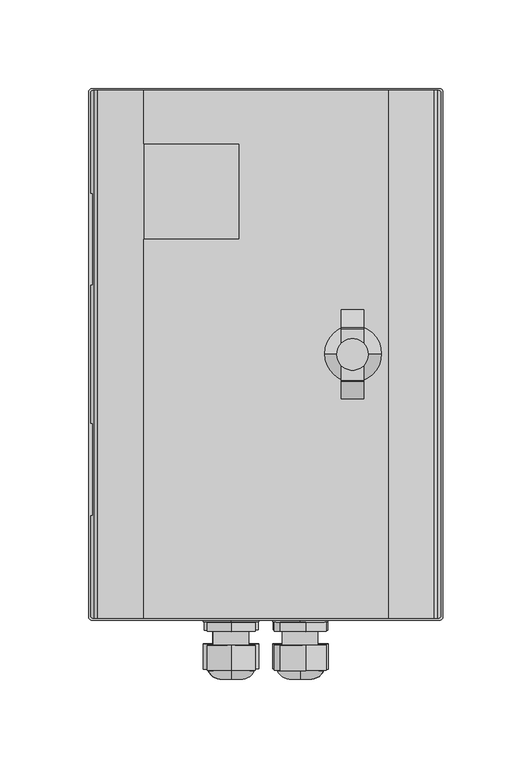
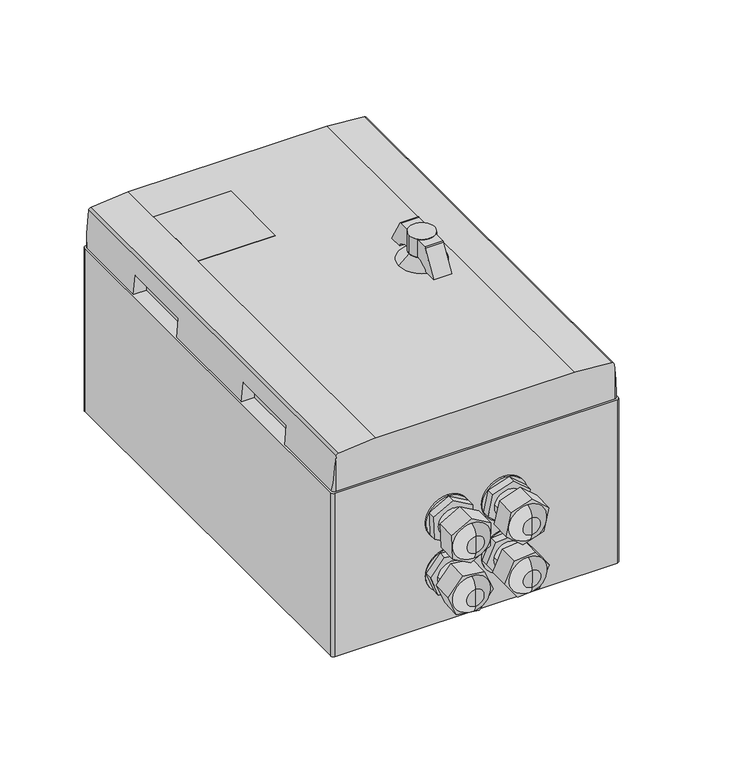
"""IFC4 building model written with IfcOpenShell, lengths in millimetres: proxy geometry, SYNAPS-POE 3E P2 : SYNAPS-POE 3E P2."""

from ifc_helpers import new_model, si_unit, point, frame, frame_2d, origin, origin_with_axes, place, context, project, spatial, polyline, circle_curve, ellipse_curve, trimmed, segment, composite_curve, outline, extrude, source, transform, mapped, element, save
from ifc_brep_helpers import plane_surface, cylinder_surface, revolved_surface, spline_surface, advanced_brep


def electrical_equipment_08942847(model_context):
    return source(origin(), model_context, "Body", "SolidModel", [
        advanced_brep(
        [(40.5431131, 21.2156863, 156.8), (58.3431131, 21.2156863, 156.8), (33.7079439, 21.5787102, 150.0), (65.7995243, 21.5787102, 150.0)],
        [
            (0, 1, circle_curve(frame((49.4431131, 21.2156863, 156.8), z_axis=(0.0, 0.0, 1.0), x_axis=(1.0, 0.0, 0.0)), 8.9)),
            (1, 0, circle_curve(frame((49.4431131, 21.2156863, 156.8), z_axis=(0.0, 0.0, 1.0), x_axis=(1.0, 0.0, 0.0)), 8.9)),
            (2, 3, circle_curve(frame((49.7537341, 21.5787102, 150.0), z_axis=(0.0, 0.0, -1.0), x_axis=(1.0, 0.0, 0.0)), 16.0457902)),
            (3, 2, circle_curve(frame((49.7537341, 21.5787102, 150.0), z_axis=(0.0, 0.0, -1.0), x_axis=(1.0, 0.0, 0.0)), 16.0457902)),
            (3, 1),
            (0, 2),
        ],
        [
            plane_surface(frame((49.4431131, 21.2156863, 156.8), z_axis=(0.0, 0.0, 1.0), x_axis=(0.0, -1.0, 0.0))),
            plane_surface(frame((49.7537341, 21.5787102, 150.0), z_axis=(0.0, 0.0, -1.0), x_axis=(0.0, -1.0, 0.0))),
            spline_surface(2, 1, [[(33.7079439, 21.5787102, 150.0), (40.5431131, 21.2156863, 156.8)], [(33.7079439, 5.532919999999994, 150.0), (40.5431131, 12.315686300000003, 156.8)], [(49.7537341, 5.532919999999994, 150.0), (49.4431131, 12.315686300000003, 156.8)], [(65.7995243, 5.5329199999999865, 150.0), (58.3431131, 12.3156863, 156.8)], [(65.7995243, 21.5787102, 150.0), (58.3431131, 21.2156863, 156.8)]], [3, 2, 3], [2, 2], [0.0, 1.0, 2.0], [0.0, 1.0], weights=[[1.0, 1.0], [0.7071067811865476, 0.7071067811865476], [1.0, 1.0], [0.7071067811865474, 0.7071067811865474], [1.0, 1.0]]),
            spline_surface(2, 1, [[(65.7995243, 21.5787102, 150.0), (58.3431131, 21.2156863, 156.8)], [(65.7995243, 37.6245004, 150.0), (58.3431131, 30.1156863, 156.8)], [(49.7537341, 37.6245004, 150.0), (49.4431131, 30.1156863, 156.8)], [(33.707943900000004, 37.62450039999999, 150.0), (40.5431131, 30.115686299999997, 156.8)], [(33.7079439, 21.5787102, 150.0), (40.5431131, 21.2156863, 156.8)]], [3, 2, 3], [2, 2], [0.0, 1.0, 2.0], [0.0, 1.0], weights=[[1.0, 1.0], [0.7071067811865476, 0.7071067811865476], [1.0, 1.0], [0.7071067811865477, 0.7071067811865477], [1.0, 1.0]]),
        ],
        [
            (0, [[1, 2]]),
            (1, [[3, 4]]),
            (2, [[-4, 5, -1, 6]]),
            (3, [[-3, -6, -2, -5]]),
        ],
    ),
        extrude(outline(composite_curve([segment(polyline([(5.4251933, 152.0265412), (-3.8152775, 152.0265412), (5.9963901, 169.2293643)]), True, "CONTINUOUS"), segment(trimmed(circle_curve(frame_2d((6.8065578, 168.7672834)), 0.9326792), [point((5.9963901, 169.2293643))], [point((6.6279678, 169.6827047))], False, "CARTESIAN"), True, "CONTINUOUS"), segment(polyline([(6.6279678, 169.6827047), (35.6186228, 169.6827047)]), True, "CONTINUOUS"), segment(trimmed(circle_curve(frame_2d((35.6186228, 168.632252)), 1.0504526), [point((35.6186228, 169.6827047))], [point((36.4885968, 169.220976))], False, "CARTESIAN"), True, "CONTINUOUS"), segment(polyline([(36.4885968, 169.220976), (46.3400389, 151.9484162), (37.0251933, 151.9484162), (37.0251933, 153.5429781), (30.214118, 156.889083), (12.402542, 156.889083), (7.9148521, 154.6843972), (5.4251933, 153.4612923), (5.4251933, 152.0265412)]), True, "CONTINUOUS")], self_intersect=False)), frame((43.1794615, 0.0, 0.0), z_axis=(1.0, 0.0, 0.0), x_axis=(0.0, 1.0, 0.0)), (0.0, 0.0, 1.0), 12.4973815),
        extrude(outline(composite_curve([segment(trimmed(circle_curve(frame_2d((49.4431131, 21.2156863)), 8.9), [point((40.5431131, 21.2156863))], [point((58.3431131, 21.2156863))], False, "CARTESIAN"), True, "CONTINUOUS"), segment(trimmed(circle_curve(frame_2d((49.4431131, 21.2156863)), 8.9), [point((58.3431131, 21.2156863))], [point((40.5431131, 21.2156863))], False, "CARTESIAN"), True, "CONTINUOUS")], self_intersect=False)), frame((0.0, 0.0, 156.8), z_axis=(0.0, 0.0, 1.0), x_axis=(1.0, 0.0, 0.0)), (0.0, 0.0, 1.0), 13.5),
        advanced_brep(
        [(-19.1195736, -156.9690622, 22.8102365), (-19.1195736, -157.4259613, 48.9859653), (-19.1195736, -157.1975117, 35.8981009), (-19.1195736, -161.9853672, 29.4852884), (-19.1195736, -162.2062545, 42.1399131), (-19.1195736, -162.0959476, 35.8204371)],
        [
            (0, 1, circle_curve(frame((-19.1195736, -157.1975117, 35.8981009), z_axis=(0.0, 0.9998476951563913, 0.01745240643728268), x_axis=(0.0, -0.01745240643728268, 0.9998476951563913)), 13.0898581)),
            (1, 2),
            (2, 0),
            (1, 0, circle_curve(frame((-19.1195736, -157.1975117, 35.8981009), z_axis=(0.0, 0.9998476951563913, 0.01745240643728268), x_axis=(0.0, -0.01745240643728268, 0.9998476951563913)), 13.0898581)),
            (3, 4, circle_curve(frame((-19.1195736, -162.0958108, 35.8126008), z_axis=(0.0, 0.9998476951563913, 0.01745240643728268), x_axis=(0.0, -0.01745240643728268, 0.9998476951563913)), 6.3282762)),
            (4, 1, circle_curve(frame((-19.1195736, -154.0017186, 41.5030103), z_axis=(-1.0, 0.0, 0.0), x_axis=(0.0, -1.0, 0.0)), 8.2292195)),
            (0, 3, circle_curve(frame((-19.1195736, -153.8080569, 30.4081375), z_axis=(-1.0, 0.0, 0.0), x_axis=(0.0, -0.9993908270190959, -0.034899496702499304)), 8.2292195)),
            (4, 3, circle_curve(frame((-19.1195736, -162.0958108, 35.8126008), z_axis=(0.0, 0.9998476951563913, 0.01745240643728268), x_axis=(0.0, -0.01745240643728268, 0.9998476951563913)), 6.3282762)),
            (5, 4),
            (3, 5),
        ],
        [
            plane_surface(frame((-19.1195736, -157.1975117, 35.8981009), z_axis=(0.0, 0.9998476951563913, 0.01745240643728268), x_axis=(0.0, -0.01745240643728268, 0.9998476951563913))),
            revolved_surface(trimmed(ellipse_curve(frame((-19.1195736, -154.0017186, 41.5030103), z_axis=(1.0, 0.0, 0.0), x_axis=(0.0, -1.0, 0.0)), 8.2292195, 8.2292195), [point((-19.1195736, -157.4259613, 48.9859653))], [point((-19.1195736, -162.2062545, 42.1399131))], True, "CARTESIAN"), (-19.1195736, -157.1975117, 35.8981009), (0.0, -0.9998476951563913, -0.01745240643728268)),
            plane_surface(frame((-19.1195736, -162.0958108, 35.8126008), z_axis=(0.0, -0.9998476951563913, -0.01745240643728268), x_axis=(0.0, -0.01745240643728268, 0.9998476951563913))),
        ],
        [
            (0, [[1, 2, 3]]),
            (0, [[4, -3, -2]]),
            (1, [[5, 6, -1, 7]]),
            (1, [[8, -7, -4, -6]]),
            (2, [[9, -5, 10]]),
            (2, [[-10, -8, -9]]),
        ],
    ),
        advanced_brep(
        [(20.2368508, -156.9690622, 22.9587386), (20.2368508, -157.4259613, 49.1344675), (20.2368508, -157.1975117, 36.046603), (20.2368508, -161.9853672, 29.6337905), (20.2368508, -162.2062545, 42.2884153), (20.2368508, -162.0959476, 35.9689393)],
        [
            (0, 1, circle_curve(frame((20.2368508, -157.1975117, 36.046603), z_axis=(0.0, 0.9998476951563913, 0.01745240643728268), x_axis=(0.0, -0.01745240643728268, 0.9998476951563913)), 13.0898581)),
            (1, 2),
            (2, 0),
            (1, 0, circle_curve(frame((20.2368508, -157.1975117, 36.046603), z_axis=(0.0, 0.9998476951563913, 0.01745240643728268), x_axis=(0.0, -0.01745240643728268, 0.9998476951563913)), 13.0898581)),
            (3, 4, circle_curve(frame((20.2368508, -162.0958108, 35.9611029), z_axis=(0.0, 0.9998476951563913, 0.01745240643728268), x_axis=(0.0, -0.01745240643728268, 0.9998476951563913)), 6.3282762)),
            (4, 1, circle_curve(frame((20.2368508, -154.0017186, 41.6515124), z_axis=(-1.0, 0.0, 0.0), x_axis=(0.0, -1.0, 0.0)), 8.2292195)),
            (0, 3, circle_curve(frame((20.2368508, -153.8080569, 30.5566396), z_axis=(-1.0, 0.0, 0.0), x_axis=(0.0, -0.9993908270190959, -0.034899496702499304)), 8.2292195)),
            (4, 3, circle_curve(frame((20.2368508, -162.0958108, 35.9611029), z_axis=(0.0, 0.9998476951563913, 0.01745240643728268), x_axis=(0.0, -0.01745240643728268, 0.9998476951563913)), 6.3282762)),
            (5, 4),
            (3, 5),
        ],
        [
            plane_surface(frame((20.2368508, -157.1975117, 36.046603), z_axis=(0.0, 0.9998476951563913, 0.01745240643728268), x_axis=(0.0, -0.01745240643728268, 0.9998476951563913))),
            revolved_surface(trimmed(ellipse_curve(frame((20.2368508, -154.0017186, 41.6515124), z_axis=(1.0, 0.0, 0.0), x_axis=(0.0, -1.0, 0.0)), 8.2292195, 8.2292195), [point((20.2368508, -157.4259613, 49.1344675))], [point((20.2368508, -162.2062545, 42.2884153))], True, "CARTESIAN"), (20.2368508, -157.1975117, 36.046603), (0.0, -0.9998476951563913, -0.01745240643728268)),
            plane_surface(frame((20.2368508, -162.0958108, 35.9611029), z_axis=(0.0, -0.9998476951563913, -0.01745240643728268), x_axis=(0.0, -0.01745240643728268, 0.9998476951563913))),
        ],
        [
            (0, [[1, 2, 3]]),
            (0, [[4, -3, -2]]),
            (1, [[5, 6, -1, 7]]),
            (1, [[8, -7, -4, -6]]),
            (2, [[9, -5, 10]]),
            (2, [[-10, -8, -9]]),
        ],
    ),
        advanced_brep(
        [(19.9923466, -156.9690622, 61.6697777), (19.9923466, -157.4259613, 87.8455066), (19.9923466, -157.1975117, 74.7576422), (19.9923466, -161.9853672, 68.3448297), (19.9923466, -162.2062545, 80.9994544), (19.9923466, -162.0959476, 74.6799784)],
        [
            (0, 1, circle_curve(frame((19.9923466, -157.1975117, 74.7576422), z_axis=(0.0, 0.9998476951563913, 0.01745240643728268), x_axis=(0.0, -0.01745240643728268, 0.9998476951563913)), 13.0898581)),
            (1, 2),
            (2, 0),
            (1, 0, circle_curve(frame((19.9923466, -157.1975117, 74.7576422), z_axis=(0.0, 0.9998476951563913, 0.01745240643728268), x_axis=(0.0, -0.01745240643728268, 0.9998476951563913)), 13.0898581)),
            (3, 4, circle_curve(frame((19.9923466, -162.0958108, 74.672142), z_axis=(0.0, 0.9998476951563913, 0.01745240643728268), x_axis=(0.0, -0.01745240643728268, 0.9998476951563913)), 6.3282762)),
            (4, 1, circle_curve(frame((19.9923466, -154.0017186, 80.3625515), z_axis=(-1.0, 0.0, 0.0), x_axis=(0.0, -1.0, 0.0)), 8.2292195)),
            (0, 3, circle_curve(frame((19.9923466, -153.8080569, 69.2676787), z_axis=(-1.0, 0.0, 0.0), x_axis=(0.0, -0.9993908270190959, -0.034899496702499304)), 8.2292195)),
            (4, 3, circle_curve(frame((19.9923466, -162.0958108, 74.672142), z_axis=(0.0, 0.9998476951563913, 0.01745240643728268), x_axis=(0.0, -0.01745240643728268, 0.9998476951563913)), 6.3282762)),
            (5, 4),
            (3, 5),
        ],
        [
            plane_surface(frame((19.9923466, -157.1975117, 74.7576422), z_axis=(0.0, 0.9998476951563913, 0.01745240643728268), x_axis=(0.0, -0.01745240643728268, 0.9998476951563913))),
            revolved_surface(trimmed(ellipse_curve(frame((19.9923466, -154.0017186, 80.3625515), z_axis=(1.0, 0.0, 0.0), x_axis=(0.0, -1.0, 0.0)), 8.2292195, 8.2292195), [point((19.9923466, -157.4259613, 87.8455066))], [point((19.9923466, -162.2062545, 80.9994544))], True, "CARTESIAN"), (19.9923466, -157.1975117, 74.7576422), (0.0, -0.9998476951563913, -0.01745240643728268)),
            plane_surface(frame((19.9923466, -162.0958108, 74.672142), z_axis=(0.0, -0.9998476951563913, -0.01745240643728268), x_axis=(0.0, -0.01745240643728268, 0.9998476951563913))),
        ],
        [
            (0, [[1, 2, 3]]),
            (0, [[4, -3, -2]]),
            (1, [[5, 6, -1, 7]]),
            (1, [[8, -7, -4, -6]]),
            (2, [[9, -5, 10]]),
            (2, [[-10, -8, -9]]),
        ],
    ),
        advanced_brep(
        [(-18.921985, -156.9690622, 61.7714521), (-18.921985, -157.4259613, 87.9471809), (-18.921985, -157.1975117, 74.8593165), (-18.921985, -161.9853672, 68.446504), (-18.921985, -162.2062545, 81.1011287), (-18.921985, -162.0959476, 74.7816527)],
        [
            (0, 1, circle_curve(frame((-18.921985, -157.1975117, 74.8593165), z_axis=(0.0, 0.9998476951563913, 0.01745240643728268), x_axis=(0.0, -0.01745240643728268, 0.9998476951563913)), 13.0898581)),
            (1, 2),
            (2, 0),
            (1, 0, circle_curve(frame((-18.921985, -157.1975117, 74.8593165), z_axis=(0.0, 0.9998476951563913, 0.01745240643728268), x_axis=(0.0, -0.01745240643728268, 0.9998476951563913)), 13.0898581)),
            (3, 4, circle_curve(frame((-18.921985, -162.0958108, 74.7738164), z_axis=(0.0, 0.9998476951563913, 0.01745240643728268), x_axis=(0.0, -0.01745240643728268, 0.9998476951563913)), 6.3282762)),
            (4, 1, circle_curve(frame((-18.921985, -154.0017186, 80.4642259), z_axis=(-1.0, 0.0, 0.0), x_axis=(0.0, -1.0, 0.0)), 8.2292195)),
            (0, 3, circle_curve(frame((-18.921985, -153.8080569, 69.369353), z_axis=(-1.0, 0.0, 0.0), x_axis=(0.0, -0.9993908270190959, -0.034899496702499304)), 8.2292195)),
            (4, 3, circle_curve(frame((-18.921985, -162.0958108, 74.7738164), z_axis=(0.0, 0.9998476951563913, 0.01745240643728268), x_axis=(0.0, -0.01745240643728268, 0.9998476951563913)), 6.3282762)),
            (5, 4),
            (3, 5),
        ],
        [
            plane_surface(frame((-18.921985, -157.1975117, 74.8593165), z_axis=(0.0, 0.9998476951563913, 0.01745240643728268), x_axis=(0.0, -0.01745240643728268, 0.9998476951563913))),
            revolved_surface(trimmed(ellipse_curve(frame((-18.921985, -154.0017186, 80.4642259), z_axis=(1.0, 0.0, 0.0), x_axis=(0.0, -1.0, 0.0)), 8.2292195, 8.2292195), [point((-18.921985, -157.4259613, 87.9471809))], [point((-18.921985, -162.2062545, 81.1011287))], True, "CARTESIAN"), (-18.921985, -157.1975117, 74.8593165), (0.0, -0.9998476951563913, -0.01745240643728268)),
            plane_surface(frame((-18.921985, -162.0958108, 74.7738164), z_axis=(0.0, -0.9998476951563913, -0.01745240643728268), x_axis=(0.0, -0.01745240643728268, 0.9998476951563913))),
        ],
        [
            (0, [[1, 2, 3]]),
            (0, [[4, -3, -2]]),
            (1, [[5, 6, -1, 7]]),
            (1, [[8, -7, -4, -6]]),
            (2, [[9, -5, 10]]),
            (2, [[-10, -8, -9]]),
        ],
    ),
        extrude(outline(composite_curve([segment(trimmed(circle_curve(frame_2d((0.0, -10.0)), 10.0), [point((0.0, -20.0))], [point((0.0, 0.0))], False, "CARTESIAN"), True, "CONTINUOUS"), segment(trimmed(circle_curve(frame_2d((0.0, -10.0)), 10.0), [point((0.0, 0.0))], [point((0.0, -20.0))], False, "CARTESIAN"), True, "CONTINUOUS")], self_intersect=False)), frame((-9.4327296, -141.9789955, 34.5544184), z_axis=(0.0, 0.9998476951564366, 0.017452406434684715), x_axis=(0.14715455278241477, -0.017262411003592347, 0.988962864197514)), (0.0, 0.0, 1.0), 7.7),
        extrude(outline(composite_curve([segment(trimmed(circle_curve(frame_2d((0.0, -10.0)), 10.0), [point((0.0, -20.0))], [point((0.0, 0.0))], False, "CARTESIAN"), True, "CONTINUOUS"), segment(trimmed(circle_curve(frame_2d((0.0, -10.0)), 10.0), [point((0.0, 0.0))], [point((0.0, -20.0))], False, "CARTESIAN"), True, "CONTINUOUS")], self_intersect=False)), frame((29.6824691, -141.9897168, 35.1686442), z_axis=(0.0, 0.9998476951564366, 0.017452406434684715), x_axis=(0.14715455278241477, -0.017262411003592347, 0.988962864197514)), (0.0, 0.0, 1.0), 7.7),
        extrude(outline(composite_curve([segment(trimmed(circle_curve(frame_2d((0.0, -10.0)), 10.0), [point((0.0, -20.0000001))], [point((0.0, 0.0))], False, "CARTESIAN"), True, "CONTINUOUS"), segment(trimmed(circle_curve(frame_2d((0.0, -10.0)), 10.0), [point((0.0, 0.0))], [point((0.0, -20.0000001))], False, "CARTESIAN"), True, "CONTINUOUS")], self_intersect=False)), frame((29.7042187, -142.6696703, 74.1231554), z_axis=(0.0, 0.9998476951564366, 0.017452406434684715), x_axis=(0.14715455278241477, -0.017262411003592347, 0.988962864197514)), (0.0, 0.0, 1.0), 7.7),
        extrude(outline(composite_curve([segment(trimmed(circle_curve(frame_2d((0.0, -10.0)), 10.0), [point((1e-07, -20.0))], [point((0.0, 0.0))], False, "CARTESIAN"), True, "CONTINUOUS"), segment(trimmed(circle_curve(frame_2d((0.0, -10.0)), 10.0), [point((0.0, 0.0))], [point((1e-07, -20.0))], False, "CARTESIAN"), True, "CONTINUOUS")], self_intersect=False)), frame((-9.2598135, -142.6642324, 73.8116168), z_axis=(0.0, 0.9998476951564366, 0.017452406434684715), x_axis=(0.14715455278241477, -0.017262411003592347, 0.988962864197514)), (0.0, 0.0, 1.0), 7.7),
        extrude(outline(polyline([(-16.509206, 0.0), (-0.8388127, 0.0), (7.3867132, -15.8865773), (0.0, -28.0677737), (-15.4531538, -28.1777285), (-24.1949184, -13.7335266), (-16.509206, 0.0)])), frame((-33.3268547, -157.1727427, 82.7842686), z_axis=(0.0, 0.9998476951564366, 0.017452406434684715), x_axis=(-0.8633498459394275, 0.008806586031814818, -0.5045289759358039)), (0.0, 0.0, 1.0), 14.3497062),
        extrude(outline(polyline([(-52.6388818, -21.7823796), (-37.8051928, -18.6923072), (-26.4715, -31.1657021), (-31.2691458, -45.906835), (-46.2792507, -49.0336575), (-57.5128449, -36.4551056), (-52.6388818, -21.7823796)])), frame((-33.3268547, -157.1727427, 82.7842686), z_axis=(0.0, 0.9998476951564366, 0.017452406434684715), x_axis=(-0.8633498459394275, 0.008806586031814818, -0.5045289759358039)), (0.0, 0.0, 1.0), 14.3497062),
        extrude(outline(polyline([(8.8907975, -32.2290081), (23.7510206, -38.0019673), (26.1637329, -53.6462746), (13.7889793, -63.584193), (-1.0663622, -57.5119341), (-2.9750776, -41.4267802), (8.8907975, -32.2290081)])), frame((-33.3268547, -157.1727427, 82.7842686), z_axis=(0.0, 0.9998476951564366, 0.017452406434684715), x_axis=(-0.8633498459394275, 0.008806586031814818, -0.5045289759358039)), (0.0, 0.0, 1.0), 14.3497062),
        extrude(outline(polyline([(-21.067793, -51.7188659), (-8.0846214, -61.2325106), (-9.5801094, -77.0802923), (-23.3036698, -83.4119521), (-36.7245514, -73.9330698), (-34.9868617, -58.022063), (-21.067793, -51.7188659)])), frame((-33.3268547, -157.1727427, 82.7842686), z_axis=(0.0, 0.9998476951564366, 0.017452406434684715), x_axis=(-0.8633498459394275, 0.008806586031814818, -0.5045289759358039)), (0.0, 0.0, 1.0), 14.3497062),
        extrude(outline(polyline([(-15.7437019, 0.0), (-0.2530858, 0.0), (7.3867132, -14.7553189), (0.0, -26.9365152), (-15.4531538, -27.0464701), (-23.4682605, -13.8029403), (-15.7437019, 0.0)])), frame((-32.6640435, -135.1254923, 83.1173883), z_axis=(0.0, 0.9998476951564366, 0.017452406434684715), x_axis=(-0.8633498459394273, 0.008806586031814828, -0.5045289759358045)), (0.0, 0.0, 1.0), 5.3),
        extrude(outline(polyline([(-51.8171027, -21.6798238), (-36.888457, -18.5699705), (-26.4714999, -30.0344436), (-31.2691458, -44.7755766), (-46.2792508, -47.902399), (-56.6647873, -36.2734397), (-51.8171027, -21.6798238)])), frame((-32.6640435, -135.1254923, 83.1173883), z_axis=(0.0, 0.9998476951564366, 0.017452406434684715), x_axis=(-0.8633498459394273, 0.008806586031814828, -0.5045289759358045)), (0.0, 0.0, 1.0), 5.3),
        extrude(outline(polyline([(9.536516, -32.0430554), (23.8649471, -37.609422), (26.2171362, -52.8612904), (14.1101122, -62.5842006), (-0.4935895, -56.6148018), (-2.3188782, -41.2327033), (9.536516, -32.0430554)])), frame((-32.6640435, -135.1254923, 83.1173883), z_axis=(0.0, 0.9998476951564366, 0.017452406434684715), x_axis=(-0.8633498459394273, 0.008806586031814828, -0.5045289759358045)), (0.0, 0.0, 1.0), 5.3),
        extrude(outline(polyline([(-20.4636823, -51.5489871), (-7.9622428, -60.7096343), (-9.3921364, -75.8623084), (-23.3036697, -82.2806937), (-36.0105807, -73.3060735), (-34.3196957, -57.82363), (-20.4636823, -51.5489871)])), frame((-32.6640435, -135.1254923, 83.1173883), z_axis=(0.0, 0.9998476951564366, 0.017452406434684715), x_axis=(-0.8633498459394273, 0.008806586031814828, -0.5045289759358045)), (0.0, 0.0, 1.0), 5.3),
        extrude(outline(composite_curve([segment(trimmed(circle_curve(frame_2d((0.0, -15.6)), 15.6), [point((0.0, -31.2))], [point((0.0, 0.0))], False, "CARTESIAN"), True, "CONTINUOUS"), segment(trimmed(circle_curve(frame_2d((0.0, -15.6)), 15.6), [point((0.0, 0.0))], [point((0.0, -31.2))], False, "CARTESIAN"), True, "CONTINUOUS")], self_intersect=False)), frame((-19.0602244, -129.9662964, 91.2303025), z_axis=(0.0, 0.9998476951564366, 0.017452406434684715), x_axis=(-1.0, 0.0, 0.0)), (0.0, 0.0, 1.0), 1.7),
        extrude(outline(composite_curve([segment(trimmed(circle_curve(frame_2d((-39.0586818, -15.6077028)), 15.6), [point((-39.0586818, -31.2077028))], [point((-39.0586818, -0.0077028))], False, "CARTESIAN"), True, "CONTINUOUS"), segment(trimmed(circle_curve(frame_2d((-39.0586818, -15.6077028)), 15.6), [point((-39.0586818, -0.0077028))], [point((-39.0586818, -31.2077028))], False, "CARTESIAN"), True, "CONTINUOUS")], self_intersect=False)), frame((-19.0602244, -129.9662964, 91.2303025), z_axis=(0.0, 0.9998476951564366, 0.017452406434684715), x_axis=(-1.0, 0.0, 0.0)), (0.0, 0.0, 1.0), 1.7),
        extrude(outline(composite_curve([segment(trimmed(circle_curve(frame_2d((-39.0663249, -54.6201329)), 15.6), [point((-39.0663249, -70.2201329))], [point((-39.0663249, -39.0201329))], False, "CARTESIAN"), True, "CONTINUOUS"), segment(trimmed(circle_curve(frame_2d((-39.0663249, -54.6201329)), 15.6), [point((-39.0663249, -39.0201329))], [point((-39.0663249, -70.2201329))], False, "CARTESIAN"), True, "CONTINUOUS")], self_intersect=False)), frame((-19.0602244, -129.9662964, 91.2303025), z_axis=(0.0, 0.9998476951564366, 0.017452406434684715), x_axis=(-1.0, 0.0, 0.0)), (0.0, 0.0, 1.0), 1.7),
        extrude(outline(composite_curve([segment(trimmed(circle_curve(frame_2d((-0.1177611, -54.57052)), 15.6), [point((-0.1177611, -70.17052))], [point((-0.1177611, -38.97052))], False, "CARTESIAN"), True, "CONTINUOUS"), segment(trimmed(circle_curve(frame_2d((-0.1177611, -54.57052)), 15.6), [point((-0.1177611, -38.97052))], [point((-0.1177611, -70.17052))], False, "CARTESIAN"), True, "CONTINUOUS")], self_intersect=False)), frame((-19.0602244, -129.9662964, 91.2303025), z_axis=(0.0, 0.9998476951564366, 0.017452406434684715), x_axis=(-1.0, 0.0, 0.0)), (0.0, 0.0, 1.0), 1.7),
        extrude(outline(polyline([(0.0, -25.0), (0.0, 0.0), (0.2270424, 0.0), (0.2270424, -25.0), (0.0, -25.0)])), frame((98.5769958, -91.6574181, 12.9315434), z_axis=(0.017452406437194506, 0.0, 0.9998476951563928), x_axis=(0.9998476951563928, 0.0, -0.017452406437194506)), (0.0, 0.0, 1.0), 48.0),
        extrude(outline(composite_curve([segment(polyline([(-99.5129757, -126.9615501), (-99.5129757, 169.4112742)]), True, "CONTINUOUS"), segment(trimmed(circle_curve(frame_2d((-97.6924643, 169.4112742)), 1.8205114), [point((-99.5129757, 169.4112742))], [point((-97.6924643, 171.2317856))], False, "CARTESIAN"), True, "CONTINUOUS"), segment(polyline([(-97.6924643, 171.2317856), (98.7030991, 171.2317856)]), True, "CONTINUOUS"), segment(trimmed(circle_curve(frame_2d((98.7030991, 169.4478604)), 1.7839251), [point((98.7030991, 171.2317856))], [point((100.4870243, 169.4478604))], False, "CARTESIAN"), True, "CONTINUOUS"), segment(polyline([(100.4870243, 169.4478604), (100.4870243, -126.9676806)]), True, "CONTINUOUS"), segment(trimmed(circle_curve(frame_2d((98.5540703, -126.831628)), 1.9377362), [point((100.4870243, -126.9676806))], [point((98.6208117, -128.7682144))], False, "CARTESIAN"), True, "CONTINUOUS"), segment(polyline([(98.6208117, -128.7682144), (-97.7063114, -128.7682144)]), True, "CONTINUOUS"), segment(trimmed(circle_curve(frame_2d((-97.7063114, -126.9615501)), 1.8066643), [point((-97.7063114, -128.7682144))], [point((-99.5129757, -126.9615501))], False, "CARTESIAN"), True, "CONTINUOUS")], self_intersect=False)), origin_with_axes(), (0.0, 0.0, 1.0), 120.0),
        advanced_brep(
        [(-68.5129757, -127.7682144, 150.0), (69.4870243, -127.7682144, 150.0), (69.4870243, 170.2317856, 150.0), (-68.5129757, 170.2317856, 150.0), (-68.5129757, 140.2317856, 150.0), (-14.5129757, 140.2317856, 150.0), (-14.5129757, 86.2317856, 150.0), (-68.5129757, 86.2317856, 150.0), (-98.5129757, -69.7682144, 120.0), (-89.5129757, -69.7682144, 120.0), (-89.5129757, -17.7682144, 120.0), (-98.5129757, -17.7682144, 120.0), (-98.5129757, 60.2317856, 120.0), (-89.5129757, 60.2317856, 120.0), (-89.5129757, 112.2317856, 120.0), (-98.5129757, 112.2317856, 120.0), (-98.5129757, 168.2393962, 120.0), (-96.5205863, 170.2317856, 120.0), (97.4946349, 170.2317856, 120.0), (99.4870243, 168.2393962, 120.0), (99.4870243, -125.775825, 120.0), (97.4946349, -127.7682144, 120.0), (-96.5205863, -127.7682144, 120.0), (-98.5129757, -125.775825, 120.0), (-96.5205863, -127.7682144, 142.773115), (97.4946349, -127.7682144, 142.773115), (97.1973221, -127.7682144, 146.1714161), (95.4011461, -127.7682144, 147.7328081), (-94.4270975, -127.7682144, 147.7328081), (-96.2272542, -127.7682144, 146.1259168), (97.4946349, 170.2317856, 142.773115), (-96.5205863, 170.2317856, 142.773115), (-96.2272542, 170.2317856, 146.1259168), (-94.4270975, 170.2317856, 147.7328081), (95.4011461, 170.2317856, 147.7328081), (97.1973221, 170.2317856, 146.1714161), (-89.5129757, 112.2317856, 134.0), (-97.2881344, 112.2317856, 134.0), (-97.2881344, 60.2317856, 134.0), (-89.5129757, 60.2317856, 134.0), (-89.5129757, -17.7682144, 134.0), (-97.2881344, -17.7682144, 134.0), (-97.2881344, -69.7682144, 134.0), (-89.5129757, -69.7682144, 134.0), (-14.5129757, 86.2317856, 150.2), (-14.5129757, 140.2317856, 150.2), (-68.5129757, 140.2317856, 150.2), (-68.5129757, 86.2317856, 150.2)],
        [
            (0, 1),
            (1, 2),
            (2, 3),
            (3, 4),
            (4, 5),
            (5, 6),
            (6, 7),
            (7, 0),
            (8, 9),
            (9, 10),
            (10, 11),
            (11, 12),
            (12, 13),
            (13, 14),
            (14, 15),
            (15, 16),
            (16, 17, circle_curve(frame((-96.5205863, 168.2393962, 120.0), z_axis=(0.0, 0.0, -1.0), x_axis=(1.0, 0.0, 0.0)), 1.9923894)),
            (17, 18),
            (18, 19, circle_curve(frame((97.4946349, 168.2393962, 120.0), z_axis=(0.0, 0.0, -1.0), x_axis=(1.0, 0.0, 0.0)), 1.9923894)),
            (19, 20),
            (20, 21, circle_curve(frame((97.4946349, -125.775825, 120.0), z_axis=(0.0, 0.0, -1.0), x_axis=(1.0, 0.0, 0.0)), 1.9923894)),
            (21, 22),
            (22, 23, circle_curve(frame((-96.5205863, -125.775825, 120.0), z_axis=(0.0, 0.0, -1.0), x_axis=(1.0, 0.0, 0.0)), 1.9923894)),
            (23, 8),
            (22, 24),
            (24, 23, ellipse_curve(frame((-96.5205863, -125.775825, 142.773115), z_axis=(0.9961946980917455, 0.0, -0.08715574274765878), x_axis=(0.08715574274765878, 0.0, 0.9961946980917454)), 22.8601046, 1.9923894)),
            (21, 25),
            (25, 26),
            (26, 27, circle_curve(frame((95.2246982, -127.7682144, 145.716), z_axis=(0.0, -1.0, 0.0), x_axis=(1.0, 0.0, 0.0)), 2.024512)),
            (27, 1),
            (0, 28),
            (28, 29, circle_curve(frame((-94.2513635, -127.7682144, 145.7241591), z_axis=(0.0, -1.0, 0.0), x_axis=(1.0, 0.0, 0.0)), 2.0163217)),
            (29, 24),
            (20, 25, ellipse_curve(frame((97.4946349, -125.775825, 142.773115), z_axis=(-0.9961946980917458, 0.0, -0.08715574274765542), x_axis=(-0.08715574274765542, 0.0, 0.9961946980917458)), 22.8601046, 1.9923894)),
            (18, 30),
            (30, 19, ellipse_curve(frame((97.4946349, 168.2393962, 142.773115), z_axis=(-0.9961946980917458, 0.0, -0.08715574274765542), x_axis=(-0.08715574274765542, 0.0, 0.9961946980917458)), 22.8601046, 1.9923894)),
            (17, 31),
            (31, 32),
            (32, 33, circle_curve(frame((-94.2513635, 170.2317856, 145.7241591), z_axis=(0.0, 1.0, 0.0), x_axis=(1.0, 0.0, 0.0)), 2.0163217)),
            (33, 3),
            (2, 34),
            (34, 35, circle_curve(frame((95.2246982, 170.2317856, 145.716), z_axis=(0.0, 1.0, 0.0), x_axis=(1.0, 0.0, 0.0)), 2.024512)),
            (35, 30),
            (16, 31, ellipse_curve(frame((-96.5205863, 168.2393962, 142.773115), z_axis=(0.9961946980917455, 0.0, -0.08715574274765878), x_axis=(0.08715574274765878, 0.0, 0.9961946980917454)), 22.8601046, 1.9923894)),
            (14, 36),
            (36, 37),
            (37, 15),
            (12, 38),
            (38, 39),
            (39, 13),
            (10, 40),
            (40, 41),
            (41, 11),
            (8, 42),
            (42, 43),
            (43, 9),
            (27, 34),
            (26, 35),
            (33, 28),
            (7, 4),
            (29, 32),
            (37, 38),
            (41, 42),
            (44, 45),
            (45, 46),
            (46, 47),
            (47, 44),
            (44, 6),
            (5, 45),
            (4, 46),
            (7, 47),
            (39, 36),
            (43, 40),
        ],
        [
            plane_surface(frame((-94.5281969, -125.775825, 150.0), z_axis=(0.0, 0.0, 1.0), x_axis=(0.0, 1.0, 0.0))),
            plane_surface(frame((-94.5281969, -125.775825, 120.0), z_axis=(0.0, 0.0, -1.0), x_axis=(0.0, -1.0, 0.0))),
            cylinder_surface(frame((-96.5205863, -125.775825, 120.0), z_axis=(0.0, 0.0, 1.0), x_axis=(1.0, 0.0, 0.0)), 1.9923894),
            plane_surface(frame((-96.5205863, -127.7682144, 150.0), z_axis=(0.0, -1.0, 0.0), x_axis=(0.0, 0.0, -1.0))),
            cylinder_surface(frame((97.4946349, -125.775825, 120.0), z_axis=(0.0, 0.0, 1.0), x_axis=(1.0, 0.0, 0.0)), 1.9923894),
            cylinder_surface(frame((97.4946349, 168.2393962, 120.0), z_axis=(0.0, 0.0, 1.0), x_axis=(1.0, 0.0, 0.0)), 1.9923894),
            plane_surface(frame((97.4946349, 170.2317856, 150.0), z_axis=(0.0, 1.0, 0.0), x_axis=(0.0, 0.0, -1.0))),
            cylinder_surface(frame((-96.5205863, 168.2393962, 120.0), z_axis=(0.0, 0.0, 1.0), x_axis=(1.0, 0.0, 0.0)), 1.9923894),
            plane_surface(frame((-98.5129757, 112.2317856, 150.0), z_axis=(0.0, -1.0, 0.0), x_axis=(0.0, 0.0, -1.0))),
            plane_surface(frame((-97.2881344, 60.2317856, 150.0), z_axis=(0.0, 1.0, 0.0), x_axis=(0.0, 0.0, -1.0))),
            plane_surface(frame((-98.5129757, -17.7682144, 150.0), z_axis=(0.0, -1.0, 0.0), x_axis=(0.0, 0.0, -1.0))),
            plane_surface(frame((-97.2881344, -69.7682144, 150.0), z_axis=(0.0, 1.0, 0.0), x_axis=(0.0, 0.0, -1.0))),
            plane_surface(frame((69.4870243, -128.7682144, 150.0), z_axis=(0.08715574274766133, 0.0, 0.9961946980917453), x_axis=(0.0, 1.0, 0.0))),
            cylinder_surface(frame((95.2246982, 171.2317856, 145.716), z_axis=(0.0, 1.0, 0.0), x_axis=(1.0, 0.0, 0.0)), 2.024512),
            plane_surface(frame((97.1973221, -128.7682144, 146.1714161), z_axis=(0.9961946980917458, 0.0, 0.08715574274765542), x_axis=(0.0, 1.0, 0.0))),
            plane_surface(frame((-94.4270975, -128.7682144, 147.7328081), z_axis=(-0.08715574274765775, 0.0, 0.9961946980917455), x_axis=(0.0, 1.0, 0.0))),
            plane_surface(frame((-98.5129757, -128.7682144, 120.0), z_axis=(-0.9961946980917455, 0.0, 0.08715574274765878), x_axis=(0.0, 1.0, 0.0))),
            cylinder_surface(frame((-94.2513635, 171.2317856, 145.7241591), z_axis=(0.0, 1.0, 0.0), x_axis=(1.0, 0.0, 0.0)), 2.0163217),
            plane_surface(frame((-14.5129757, 86.2317856, 150.2), z_axis=(0.0, 0.0, 1.0), x_axis=(0.0, 1.0, 0.0))),
            plane_surface(frame((-14.5129757, 86.2317856, 150.2), z_axis=(1.0, 0.0, 0.0), x_axis=(0.0, 0.0, -1.0))),
            plane_surface(frame((-14.5129757, 140.2317856, 150.2), z_axis=(0.0, 1.0, 0.0), x_axis=(0.0, 0.0, -1.0))),
            plane_surface(frame((-68.5129757, 140.2317856, 150.2), z_axis=(-1.0, 0.0, 0.0), x_axis=(0.0, 0.0, -1.0))),
            plane_surface(frame((-68.5129757, 86.2317856, 150.2), z_axis=(0.0, -1.0, 0.0), x_axis=(0.0, 0.0, -1.0))),
            plane_surface(frame((-89.5129757, 60.2317856, 134.0), z_axis=(-1.0, 0.0, 0.0), x_axis=(0.0, 0.0, -1.0))),
            plane_surface(frame((-89.5129757, 112.2317856, 134.0), z_axis=(0.0, 0.0, -1.0), x_axis=(-1.0, 0.0, 0.0))),
            plane_surface(frame((-89.5129757, -17.7682144, 134.0), z_axis=(0.0, 0.0, -1.0), x_axis=(-1.0, 0.0, 0.0))),
        ],
        [
            (0, [[1, 2, 3, 4, 5, 6, 7, 8]]),
            (1, [[9, 10, 11, 12, 13, 14, 15, 16, 17, 18, 19, 20, 21, 22, 23, 24]]),
            (2, [[-23, 25, 26]]),
            (3, [[-22, 27, 28, 29, 30, -1, 31, 32, 33, -25]]),
            (4, [[-21, 34, -27]]),
            (5, [[-19, 35, 36]]),
            (6, [[-18, 37, 38, 39, 40, -3, 41, 42, 43, -35]]),
            (7, [[-17, 44, -37]]),
            (8, [[45, 46, 47, -15]]),
            (9, [[48, 49, 50, -13]]),
            (10, [[51, 52, 53, -11]]),
            (11, [[54, 55, 56, -9]]),
            (12, [[57, -41, -2, -30]]),
            (13, [[-57, -29, 58, -42]]),
            (14, [[-58, -28, -34, -20, -36, -43]]),
            (15, [[59, -31, -8, 60, -4, -40]]),
            (16, [[61, -38, -44, -16, -47, 62, -48, -12, -53, 63, -54, -24, -26, -33]]),
            (17, [[-59, -39, -61, -32]]),
            (18, [[64, 65, 66, 67]]),
            (19, [[-64, 68, -6, 69]]),
            (20, [[-65, -69, -5, 70]]),
            (21, [[-66, -70, -60, 71]]),
            (22, [[-67, -71, -7, -68]]),
            (23, [[72, -45, -14, -50]]),
            (23, [[73, -51, -10, -56]]),
            (24, [[-72, -49, -62, -46]]),
            (25, [[-73, -55, -63, -52]]),
        ],
    ),
    ])


if __name__ == "__main__":
    model = new_model("IFC4")
    model_context = context("Model", 3, world=origin())
    ifc_project = project(units=[si_unit("LENGTHUNIT", "METRE", prefix="MILLI")], contexts=[model_context])
    site = spatial("IfcSite", under=ifc_project)
    building = spatial("IfcBuilding", under=site)
    placement = place(None, origin())
    electrical_equipment_shape = electrical_equipment_08942847(model_context)
    element("IfcBuildingElementProxy", 1, Name="SYNAPS-POE 3E P2 : SYNAPS-POE 3E P2", ObjectType="SYNAPS-POE 3E P2 : SYNAPS-POE 3E P2", at=placement, inside=building, context=model_context, shape_type="MappedRepresentation", body=[
        mapped(electrical_equipment_shape, transform((0.0, 0.0, 0.0), x_axis=(1.0, 0.0, 0.0), y_axis=(0.0, 1.0, 0.0), z_axis=(0.0, 0.0, 1.0))),
    ])
    save(model, "model.ifc")
